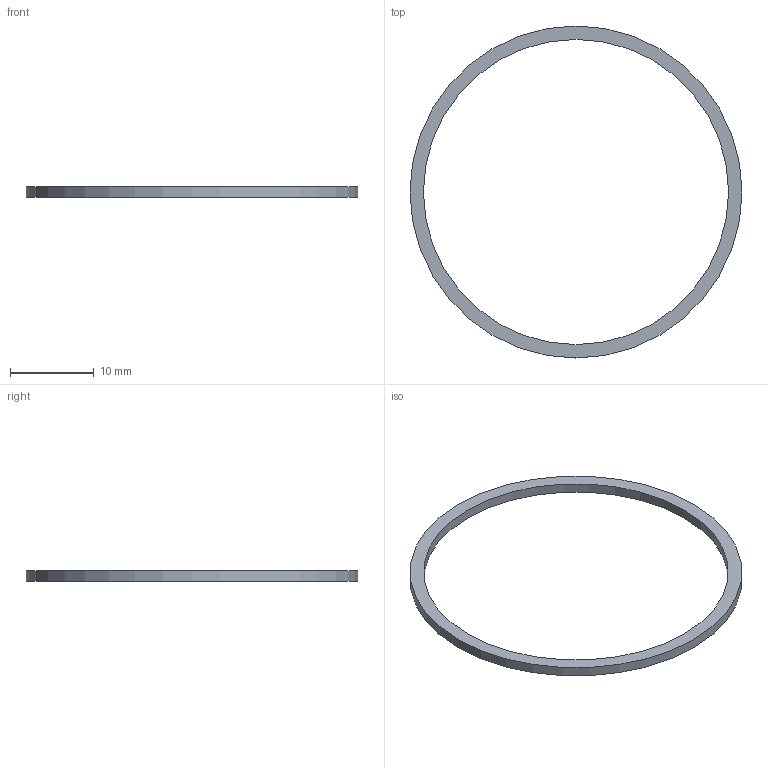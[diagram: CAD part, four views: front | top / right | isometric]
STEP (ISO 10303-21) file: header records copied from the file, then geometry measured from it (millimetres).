
FILE_DESCRIPTION(('Open CASCADE Model'),'2;1');
FILE_NAME('Open CASCADE Shape Model','2026-09-04T14:05:01',('Author'),( 'Open CASCADE'),'Open CASCADE STEP processor 7.7','Open CASCADE 7.7' ,'Unknown');
FILE_SCHEMA(('AUTOMOTIVE_DESIGN { 1 0 10303 214 1 1 1 1 }'));
Length unit declared in the file: millimetre
Products named in the file (1): Open CASCADE STEP translator 7.7 8
Bounding box: 39.6 x 39.6 x 1.2 mm (x, y, z)
Volume: 229.2 mm3; surface area: 668.5 mm2
Topology: 1 solids, 1 shells, 4 faces, 6 edges, 4 vertices
Faces by surface type: cylinder 2, plane 2
Full cylindrical faces by diameter (mm): 36.4 x1, 39.6 x1
Entity records: 192 total; most frequent: CARTESIAN_POINT 39, DIRECTION 30, ORIENTED_EDGE 12, PCURVE 12, DEFINITIONAL_REPRESENTATION 12, LINE 10, VECTOR 10, AXIS2_PLACEMENT_3D 9
